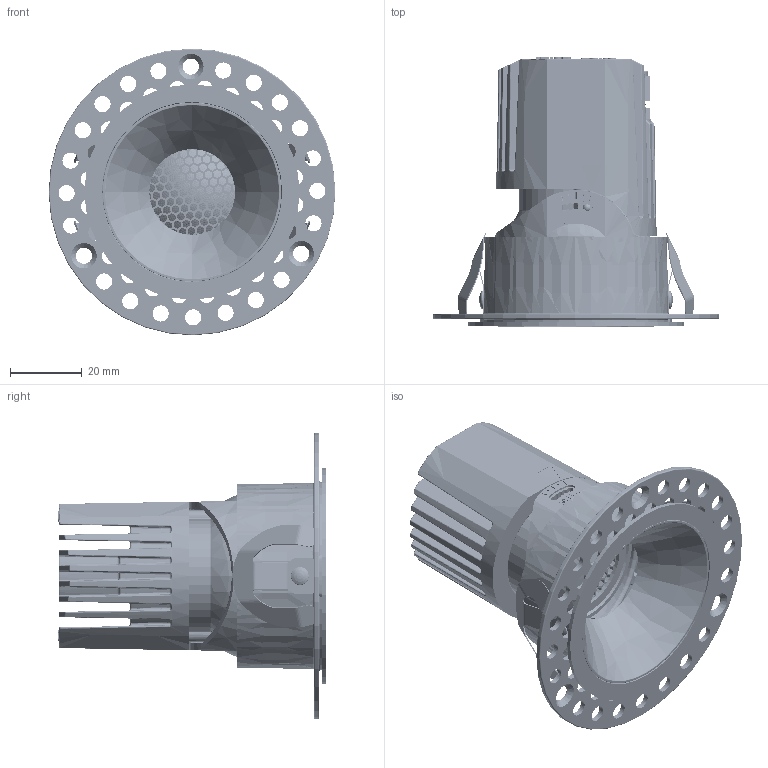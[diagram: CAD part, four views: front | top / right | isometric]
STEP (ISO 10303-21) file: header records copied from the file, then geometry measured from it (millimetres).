
FILE_DESCRIPTION (( 'STEP AP214' ), '1' );
FILE_NAME ('168001-55.STEP', '2026-08-28T08:24:30', ( '' ), ( '' ), 'SwSTEP 2.0', 'SolidWorks 2023', '' );
FILE_SCHEMA (( 'AUTOMOTIVE_DESIGN' ));
Length unit declared in the file: millimetre
Products named in the file (1): 168001-55
Bounding box: 80 x 75 x 80 mm (x, y, z)
Volume: 80247.5 mm3; surface area: 88915.4 mm2
Topology: 33 solids, 33 shells, 10537 faces, 27648 edges, 17124 vertices
Faces by surface type: bspline 6052, plane 1825, cylinder 1084, cone 662, sphere 476, torus 438
Entity records: 468148 total; most frequent: CARTESIAN_POINT 258711, ORIENTED_EDGE 54982, DIRECTION 28693, EDGE_CURVE 27491, VERTEX_POINT 17106, B_SPLINE_CURVE_WITH_KNOTS 14216, AXIS2_PLACEMENT_3D 11817, EDGE_LOOP 10961
